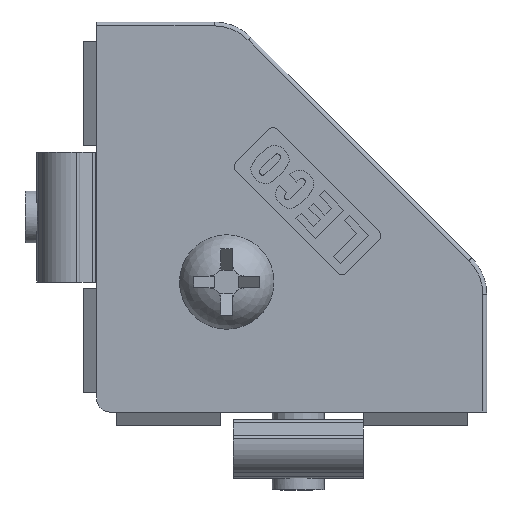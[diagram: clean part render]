
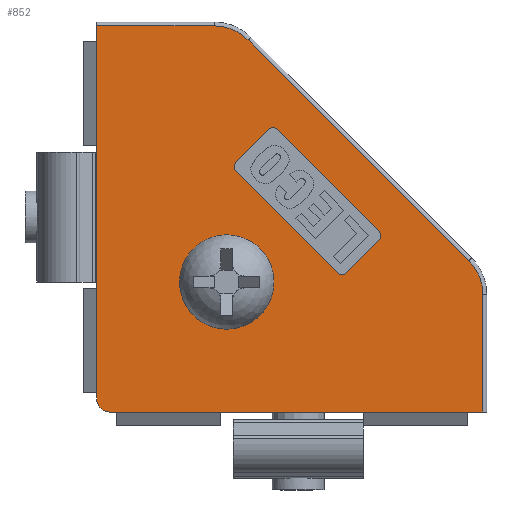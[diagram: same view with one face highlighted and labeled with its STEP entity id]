
A CAD part, left-side view. The second image highlights one B-rep face of the part: STEP entity #852.
In plain terms, the highlighted planar face has unit normal (-1, 0, 0) as drawn and (0, -1, 0) by its records, which use the part's own axes.
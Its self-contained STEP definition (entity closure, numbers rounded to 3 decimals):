
#852=ADVANCED_FACE('',(#1730,#1731,#1732),#1733,.F.);
#1730=FACE_BOUND('',#2683,.T.);
#1731=FACE_BOUND('',#2684,.T.);
#1732=FACE_OUTER_BOUND('',#2685,.T.);
#1733=PLANE('',#2686);
#2683=EDGE_LOOP('',(#4789));
#2684=EDGE_LOOP('',(#4790,#4791,#4792,#4793,#4794,#4795,#4796,#4797));
#2685=EDGE_LOOP('',(#4798,#4799,#4800,#4801,#4802,#4803,#4804,#4805));
#2686=AXIS2_PLACEMENT_3D('',#4806,#4807,#4808);
#4789=ORIENTED_EDGE('',*,*,#5908,.T.);
#4790=ORIENTED_EDGE('',*,*,#6358,.F.);
#4791=ORIENTED_EDGE('',*,*,#6299,.F.);
#4792=ORIENTED_EDGE('',*,*,#6340,.F.);
#4793=ORIENTED_EDGE('',*,*,#6343,.F.);
#4794=ORIENTED_EDGE('',*,*,#6346,.F.);
#4795=ORIENTED_EDGE('',*,*,#6349,.F.);
#4796=ORIENTED_EDGE('',*,*,#6352,.F.);
#4797=ORIENTED_EDGE('',*,*,#6355,.F.);
#4798=ORIENTED_EDGE('',*,*,#6414,.T.);
#4799=ORIENTED_EDGE('',*,*,#5859,.T.);
#4800=ORIENTED_EDGE('',*,*,#5864,.T.);
#4801=ORIENTED_EDGE('',*,*,#5867,.T.);
#4802=ORIENTED_EDGE('',*,*,#5871,.T.);
#4803=ORIENTED_EDGE('',*,*,#5873,.T.);
#4804=ORIENTED_EDGE('',*,*,#5726,.T.);
#4805=ORIENTED_EDGE('',*,*,#5763,.T.);
#4806=CARTESIAN_POINT('',(1.,7.444,31.0));
#4807=DIRECTION('',(0.0,1.0,0.0));
#4808=DIRECTION('',(0.0,0.0,1.0));
#5726=EDGE_CURVE('',#6788,#6786,#6789,.T.);
#5763=EDGE_CURVE('',#6786,#6852,#6854,.F.);
#5859=EDGE_CURVE('',#6991,#6989,#6992,.F.);
#5864=EDGE_CURVE('',#6989,#6997,#6999,.F.);
#5867=EDGE_CURVE('',#6997,#7001,#7003,.T.);
#5871=EDGE_CURVE('',#7001,#7006,#7008,.F.);
#5873=EDGE_CURVE('',#7006,#6788,#7010,.F.);
#5908=EDGE_CURVE('',#7051,#7051,#7052,.T.);
#6299=EDGE_CURVE('',#7675,#7676,#7677,.T.);
#6340=EDGE_CURVE('',#7718,#7675,#7719,.T.);
#6343=EDGE_CURVE('',#7722,#7718,#7723,.T.);
#6346=EDGE_CURVE('',#7726,#7722,#7727,.T.);
#6349=EDGE_CURVE('',#7730,#7726,#7731,.T.);
#6352=EDGE_CURVE('',#7734,#7730,#7735,.T.);
#6355=EDGE_CURVE('',#7738,#7734,#7739,.T.);
#6358=EDGE_CURVE('',#7676,#7738,#7742,.T.);
#6414=EDGE_CURVE('',#6852,#6991,#7800,.T.);
#6786=VERTEX_POINT('',#8345);
#6788=VERTEX_POINT('',#8348);
#6789=LINE('',#8349,#8350);
#6852=VERTEX_POINT('',#8440);
#6854=CIRCLE('',#8443,1.0);
#6989=VERTEX_POINT('',#8614);
#6991=VERTEX_POINT('',#8616);
#6992=LINE('',#8617,#8618);
#6997=VERTEX_POINT('',#8624);
#6999=CIRCLE('',#8626,3.7);
#7001=VERTEX_POINT('',#8628);
#7003=LINE('',#8630,#8631);
#7006=VERTEX_POINT('',#8635);
#7008=CIRCLE('',#8637,3.7);
#7010=LINE('',#8639,#8640);
#7051=VERTEX_POINT('',#8693);
#7052=CIRCLE('',#8694,2.0);
#7675=VERTEX_POINT('',#9483);
#7676=VERTEX_POINT('',#9484);
#7677=CIRCLE('',#9485,0.45);
#7718=VERTEX_POINT('',#9546);
#7719=LINE('',#9547,#9548);
#7722=VERTEX_POINT('',#9552);
#7723=CIRCLE('',#9553,0.45);
#7726=VERTEX_POINT('',#9557);
#7727=LINE('',#9558,#9559);
#7730=VERTEX_POINT('',#9563);
#7731=CIRCLE('',#9564,0.45);
#7734=VERTEX_POINT('',#9568);
#7735=LINE('',#9569,#9570);
#7738=VERTEX_POINT('',#9574);
#7739=CIRCLE('',#9575,0.45);
#7742=LINE('',#9579,#9580);
#7800=LINE('',#9665,#9666);
#8345=CARTESIAN_POINT('',(1.,7.444,2.));
#8348=CARTESIAN_POINT('',(1.,7.444,30.7));
#8349=CARTESIAN_POINT('',(1.,7.444,31.0));
#8350=VECTOR('',#10444,1.0);
#8440=CARTESIAN_POINT('',(2.,7.444,1.));
#8443=AXIS2_PLACEMENT_3D('',#10479,#10480,#10481);
#8614=CARTESIAN_POINT('',(30.7,7.444,10.029));
#8616=CARTESIAN_POINT('',(30.7,7.444,1.));
#8617=CARTESIAN_POINT('',(30.7,7.444,31.0));
#8618=VECTOR('',#10614,1.0);
#8624=CARTESIAN_POINT('',(29.616,7.444,12.645));
#8626=AXIS2_PLACEMENT_3D('',#10622,#10623,#10624);
#8628=CARTESIAN_POINT('',(12.645,7.444,29.616));
#8630=CARTESIAN_POINT('',(12.645,7.444,29.616));
#8631=VECTOR('',#10628,1.0);
#8635=CARTESIAN_POINT('',(10.029,7.444,30.7));
#8637=AXIS2_PLACEMENT_3D('',#10633,#10634,#10635);
#8639=CARTESIAN_POINT('',(1.,7.444,30.7));
#8640=VECTOR('',#10636,1.0);
#8693=CARTESIAN_POINT('',(13.0,7.444,11.0));
#8694=AXIS2_PLACEMENT_3D('',#10667,#10668,#10669);
#9483=CARTESIAN_POINT('',(14.881,7.444,22.73));
#9484=CARTESIAN_POINT('',(14.245,7.444,22.73));
#9485=AXIS2_PLACEMENT_3D('',#11256,#11257,#11258);
#9546=CARTESIAN_POINT('',(22.73,7.444,14.881));
#9547=CARTESIAN_POINT('',(22.73,7.444,14.881));
#9548=VECTOR('',#11279,1.0);
#9552=CARTESIAN_POINT('',(22.73,7.444,14.245));
#9553=AXIS2_PLACEMENT_3D('',#11281,#11282,#11283);
#9557=CARTESIAN_POINT('',(20.184,7.444,11.699));
#9558=CARTESIAN_POINT('',(20.184,7.444,11.699));
#9559=VECTOR('',#11285,1.0);
#9563=CARTESIAN_POINT('',(19.548,7.444,11.699));
#9564=AXIS2_PLACEMENT_3D('',#11287,#11288,#11289);
#9568=CARTESIAN_POINT('',(11.699,7.444,19.548));
#9569=CARTESIAN_POINT('',(11.699,7.444,19.548));
#9570=VECTOR('',#11291,1.0);
#9574=CARTESIAN_POINT('',(11.699,7.444,20.184));
#9575=AXIS2_PLACEMENT_3D('',#11293,#11294,#11295);
#9579=CARTESIAN_POINT('',(14.245,7.444,22.73));
#9580=VECTOR('',#11297,1.0);
#9665=CARTESIAN_POINT('',(1.,7.444,1.));
#9666=VECTOR('',#11325,1.0);
#10444=DIRECTION('',(0.0,0.0,-1.0));
#10479=CARTESIAN_POINT('',(2.,7.444,2.));
#10480=DIRECTION('',(0.0,1.0,0.0));
#10481=DIRECTION('',(0.0,0.0,1.0));
#10614=DIRECTION('',(0.0,0.0,-1.0));
#10622=CARTESIAN_POINT('',(27.0,7.444,10.029));
#10623=DIRECTION('',(0.0,1.0,0.0));
#10624=DIRECTION('',(0.0,0.0,1.0));
#10628=DIRECTION('',(-0.707,0.0,0.707));
#10633=CARTESIAN_POINT('',(10.029,7.444,27.0));
#10634=DIRECTION('',(0.0,1.0,0.0));
#10635=DIRECTION('',(0.0,0.0,1.0));
#10636=DIRECTION('',(1.0,0.0,0.0));
#10667=CARTESIAN_POINT('',(11.0,7.444,11.0));
#10668=DIRECTION('',(-0.0,1.0,0.0));
#10669=DIRECTION('',(1.0,0.0,0.0));
#11256=CARTESIAN_POINT('',(14.563,7.444,22.412));
#11257=DIRECTION('',(0.0,-1.0,0.0));
#11258=DIRECTION('',(1.0,0.0,0.0));
#11279=DIRECTION('',(-0.707,0.0,0.707));
#11281=CARTESIAN_POINT('',(22.412,7.444,14.563));
#11282=DIRECTION('',(0.0,-1.0,0.0));
#11283=DIRECTION('',(1.0,0.0,0.0));
#11285=DIRECTION('',(0.707,0.0,0.707));
#11287=CARTESIAN_POINT('',(19.866,7.444,12.017));
#11288=DIRECTION('',(0.0,-1.0,0.0));
#11289=DIRECTION('',(1.0,0.0,0.0));
#11291=DIRECTION('',(0.707,0.0,-0.707));
#11293=CARTESIAN_POINT('',(12.017,7.444,19.866));
#11294=DIRECTION('',(0.0,-1.0,0.0));
#11295=DIRECTION('',(1.0,0.0,0.0));
#11297=DIRECTION('',(-0.707,0.0,-0.707));
#11325=DIRECTION('',(1.0,0.0,0.0));
